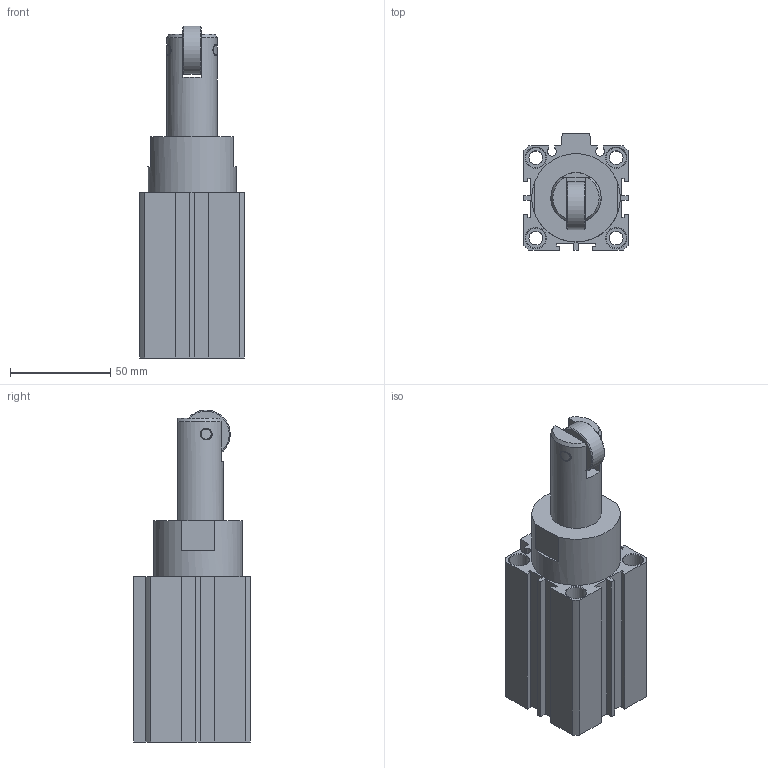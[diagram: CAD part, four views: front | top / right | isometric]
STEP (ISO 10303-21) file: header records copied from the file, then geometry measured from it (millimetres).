
FILE_DESCRIPTION((''),'2;1');
FILE_NAME('I:\3D電子目錄\氣缸\STC\STC\STC40\STC40x30.stp','2007-09-19T15:42:21',('Administrator'),(''),'Autodesk Inventor 11','Autodesk Inventor 11','');
FILE_SCHEMA(('AUTOMOTIVE_DESIGN { 1 0 10303 214 1 1 1 1 }'));
Length unit declared in the file: millimetre
Products named in the file (1): STC40
Bounding box: 52 x 58 x 165.2 mm (x, y, z)
Volume: 257937.7 mm3; surface area: 49330.2 mm2
Topology: 3 solids, 3 shells, 144 faces, 340 edges, 223 vertices
Faces by surface type: plane 84, cylinder 36, cone 18, bspline 5, torus 1
Full cylindrical faces by diameter (mm): 2.2 x2, 5 x2, 5.2 x2, 6.8 x4, 10 x8, 24 x1, 29 x1, 42 x2, 44 x2, 44.5 x2
Entity records: 4562 total; most frequent: CARTESIAN_POINT 1387, DIRECTION 646, ORIENTED_EDGE 570, EDGE_CURVE 285, AXIS2_PLACEMENT_3D 233, EDGE_LOOP 224, VERTEX_POINT 213, VECTOR 180
